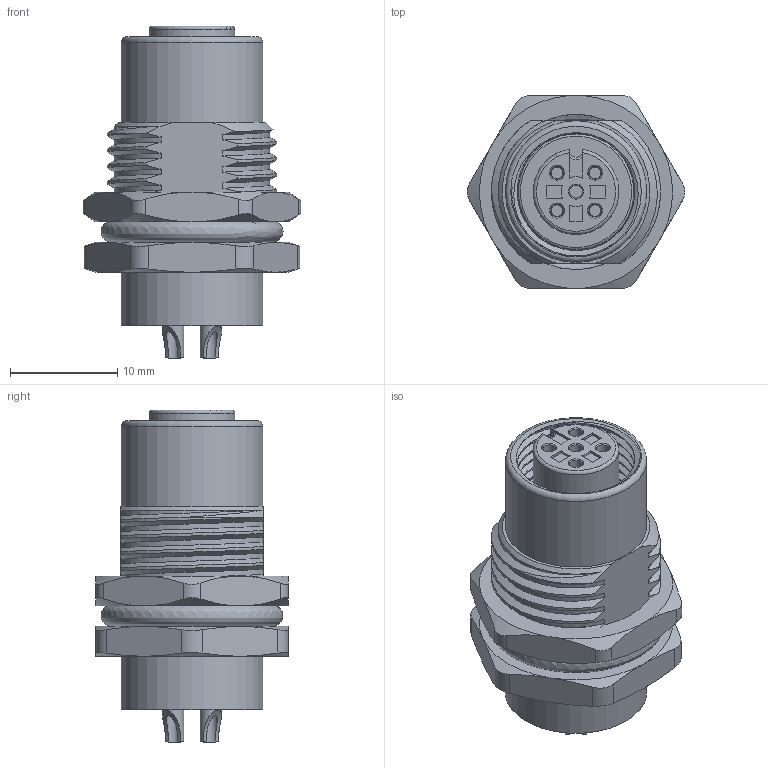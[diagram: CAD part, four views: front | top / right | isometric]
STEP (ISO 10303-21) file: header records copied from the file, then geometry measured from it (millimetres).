
FILE_DESCRIPTION(/* description */ (''),/* implementation_level */ '2;1');
FILE_NAME(/* name */ 'FL-M12-4FB.stp',/* time_stamp */ '2024-02-28T10:34:39+08:00',/* author */ (''),/* organization */ (''),/* preprocessor_version */ 'ST-DEVELOPER v16.7',/* originating_system */ 'SIEMENS PLM Software NX 12.0',/* authorisation */ '');
FILE_SCHEMA (('AP203_CONFIGURATION_CONTROLLED_3D_DESIGN_OF_MECHANICAL_PARTS_AND_ASSEMBLIES_MIM_LF { 1 0 10303 403 2 1 2}'));
Length unit declared in the file: millimetre
Products named in the file (1): Admi4C686D94jnt0
Bounding box: 20.32 x 18 x 31 mm (x, y, z)
Volume: 4022.7 mm3; surface area: 5902.2 mm2
Topology: 2 solids, 3 shells, 497 faces, 1362 edges, 903 vertices
Faces by surface type: plane 265, cylinder 129, cone 52, bspline 42, torus 9
Full cylindrical faces by diameter (mm): 1.2 x9, 2 x8, 2.1 x9, 8.3 x2, 9.4 x3, 9.9 x1, 10 x1, 10.8 x1, 12 x1, 13.2 x2
Entity records: 29139 total; most frequent: CARTESIAN_POINT 17181, ORIENTED_EDGE 2552, DIRECTION 2203, EDGE_CURVE 1276, VERTEX_POINT 868, AXIS2_PLACEMENT_3D 737, LINE 729, VECTOR 729
